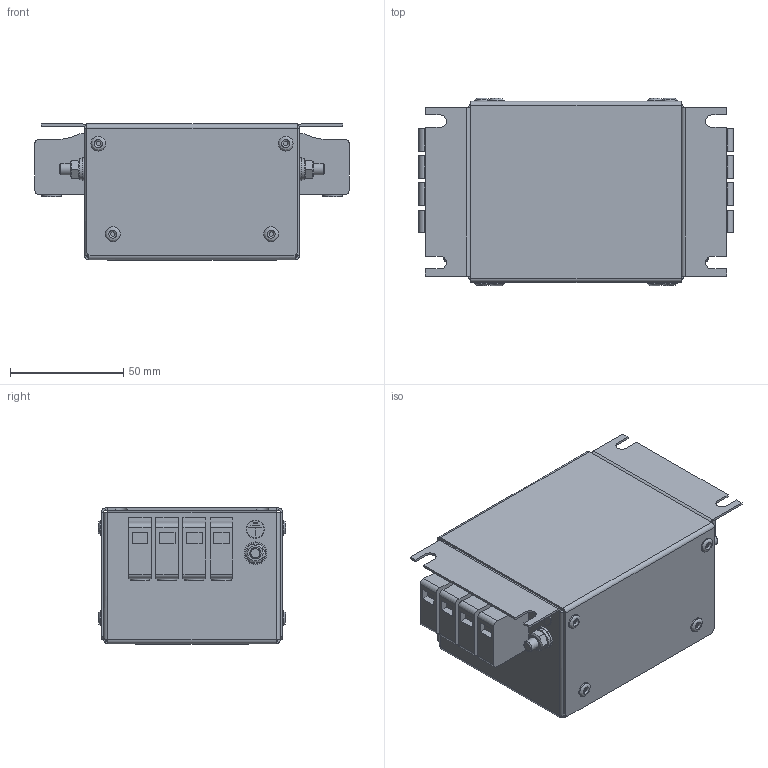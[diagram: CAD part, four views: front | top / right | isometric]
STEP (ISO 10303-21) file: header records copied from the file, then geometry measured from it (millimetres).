
FILE_DESCRIPTION(/* description */ (''),/* implementation_level */ '2;1');
FILE_NAME(/* name */ 'C:\Users\Orhan.Eker\Desktop\FN355-30-44.stp',/* time_stamp */ '2021-03-15T09:39:29+01:00',/* author */ ('orhan.eker'),/* organization */ (''),/* preprocessor_version */ 'ST-DEVELOPER v18.1',/* originating_system */ 'Autodesk Inventor 2020',/* authorisation */ '');
FILE_SCHEMA (('AUTOMOTIVE_DESIGN { 1 0 10303 214 3 1 1 }'));
Length unit declared in the file: millimetre
Products named in the file (1): 1054554_IAM_000
Bounding box: 138.8 x 82.8 x 60.1 mm (x, y, z)
Volume: 85830.1 mm3; surface area: 90834.2 mm2
Topology: 1 solids, 1 shells, 586 faces, 1329 edges, 835 vertices
Faces by surface type: plane 372, cylinder 153, cone 26, bspline 23, torus 12
Full cylindrical faces by diameter (mm): 1 x8, 2 x8, 3.2 x8, 3.3 x9, 3.4 x8, 3.5 x8, 5 x4, 5.2 x8, 6.5 x8, 7.724 x2, 7.979 x2, 8.5 x8, 10 x2
Entity records: 17222 total; most frequent: CARTESIAN_POINT 3517, DIRECTION 2819, ORIENTED_EDGE 2658, EDGE_CURVE 1329, AXIS2_PLACEMENT_3D 980, LINE 859, VECTOR 859, VERTEX_POINT 835
